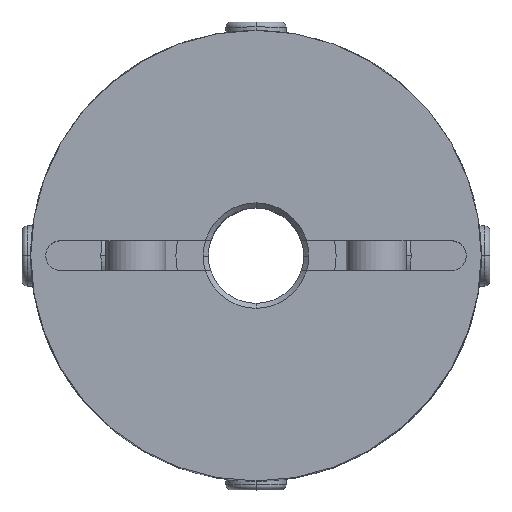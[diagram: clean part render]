
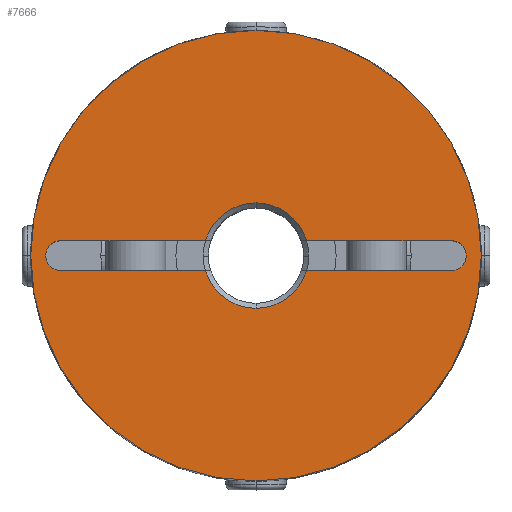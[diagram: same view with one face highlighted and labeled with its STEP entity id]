
A CAD part, top view. The second image highlights one B-rep face of the part: STEP entity #7666.
In plain terms, the highlighted planar face has unit normal (0, 0, 1).
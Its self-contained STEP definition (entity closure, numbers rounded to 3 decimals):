
#979=CARTESIAN_POINT('',(0.,22.5,22.5));
#980=VERTEX_POINT('',#979);
#987=CARTESIAN_POINT('',(0.,-22.5,22.5));
#988=VERTEX_POINT('',#987);
#989=CARTESIAN_POINT('',(0.0,0.0,22.5));
#990=DIRECTION('',(0.0,0.0,-1.0));
#991=DIRECTION('',(0.0,-1.0,0.0));
#992=AXIS2_PLACEMENT_3D('',#989,#990,#991);
#993=CIRCLE('',#992,22.5);
#994=EDGE_CURVE('',#980,#988,#993,.T.);
#1309=CARTESIAN_POINT('',(20.561,1.061,22.5));
#1310=VERTEX_POINT('',#1309);
#1326=CARTESIAN_POINT('',(19.5,-1.5,22.5));
#1327=VERTEX_POINT('',#1326);
#1334=CARTESIAN_POINT('',(19.5,0.,22.5));
#1335=DIRECTION('',(0.0,0.0,1.0));
#1336=DIRECTION('',(0.707,-0.707,0.0));
#1337=AXIS2_PLACEMENT_3D('',#1334,#1335,#1336);
#1338=CIRCLE('',#1337,1.5);
#1339=EDGE_CURVE('',#1327,#1310,#1338,.T.);
#1351=CARTESIAN_POINT('',(-20.561,-1.061,22.5));
#1352=VERTEX_POINT('',#1351);
#1368=CARTESIAN_POINT('',(-19.5,1.5,22.5));
#1369=VERTEX_POINT('',#1368);
#1376=CARTESIAN_POINT('',(-19.5,0.,22.5));
#1377=DIRECTION('',(0.0,0.0,1.0));
#1378=DIRECTION('',(-0.707,0.707,0.0));
#1379=AXIS2_PLACEMENT_3D('',#1376,#1377,#1378);
#1380=CIRCLE('',#1379,1.5);
#1381=EDGE_CURVE('',#1369,#1352,#1380,.T.);
#2105=CARTESIAN_POINT('',(0.,5.263,22.5));
#2106=VERTEX_POINT('',#2105);
#2114=CARTESIAN_POINT('',(5.044,1.5,22.5));
#2115=VERTEX_POINT('',#2114);
#2129=CARTESIAN_POINT('',(0.0,0.0,22.5));
#2130=DIRECTION('',(0.0,0.0,1.0));
#2131=DIRECTION('',(0.0,1.0,0.0));
#2132=AXIS2_PLACEMENT_3D('',#2129,#2130,#2131);
#2133=CIRCLE('',#2132,5.263);
#2134=EDGE_CURVE('',#2115,#2106,#2133,.T.);
#2144=CARTESIAN_POINT('',(0.,-5.263,22.5));
#2145=VERTEX_POINT('',#2144);
#2161=CARTESIAN_POINT('',(-5.044,-1.5,22.5));
#2162=VERTEX_POINT('',#2161);
#2176=CARTESIAN_POINT('',(0.0,0.0,22.5));
#2177=DIRECTION('',(0.0,0.0,1.0));
#2178=DIRECTION('',(0.0,-1.0,0.0));
#2179=AXIS2_PLACEMENT_3D('',#2176,#2177,#2178);
#2180=CIRCLE('',#2179,5.263);
#2181=EDGE_CURVE('',#2162,#2145,#2180,.T.);
#7404=CARTESIAN_POINT('',(19.5,1.5,22.5));
#7405=VERTEX_POINT('',#7404);
#7412=CARTESIAN_POINT('',(5.044,1.5,22.5));
#7413=DIRECTION('',(1.0,0.0,0.0));
#7414=VECTOR('',#7413,14.456);
#7415=LINE('',#7412,#7414);
#7416=EDGE_CURVE('',#2115,#7405,#7415,.T.);
#7551=CARTESIAN_POINT('',(5.044,-1.5,22.5));
#7552=VERTEX_POINT('',#7551);
#7566=CARTESIAN_POINT('',(19.5,-1.5,22.5));
#7567=DIRECTION('',(-1.0,0.0,0.0));
#7568=VECTOR('',#7567,14.456);
#7569=LINE('',#7566,#7568);
#7570=EDGE_CURVE('',#1327,#7552,#7569,.T.);
#7593=CARTESIAN_POINT('',(0.0,0.0,22.5));
#7594=DIRECTION('',(0.0,0.0,1.0));
#7595=DIRECTION('',(0.0,-1.0,0.0));
#7596=AXIS2_PLACEMENT_3D('',#7593,#7594,#7595);
#7597=CIRCLE('',#7596,5.263);
#7598=EDGE_CURVE('',#2145,#7552,#7597,.T.);
#7605=CARTESIAN_POINT('',(0.,-2.045,22.5));
#7606=DIRECTION('',(0.0,0.0,1.0));
#7607=DIRECTION('',(0.0,-1.0,0.0));
#7608=AXIS2_PLACEMENT_3D('',#7605,#7606,#7607);
#7609=PLANE('',#7608);
#7610=CARTESIAN_POINT('',(0.0,0.0,22.5));
#7611=DIRECTION('',(0.0,0.0,-1.0));
#7612=DIRECTION('',(0.0,-1.0,0.0));
#7613=AXIS2_PLACEMENT_3D('',#7610,#7611,#7612);
#7614=CIRCLE('',#7613,22.5);
#7615=EDGE_CURVE('',#988,#980,#7614,.T.);
#7616=ORIENTED_EDGE('',*,*,#7615,.F.);
#7617=ORIENTED_EDGE('',*,*,#994,.F.);
#7618=EDGE_LOOP('',(#7616,#7617));
#7619=FACE_OUTER_BOUND('',#7618,.T.);
#7620=ORIENTED_EDGE('',*,*,#2181,.F.);
#7621=CARTESIAN_POINT('',(-19.5,-1.5,22.5));
#7622=VERTEX_POINT('',#7621);
#7623=CARTESIAN_POINT('',(-5.044,-1.5,22.5));
#7624=DIRECTION('',(-1.0,0.0,0.0));
#7625=VECTOR('',#7624,14.456);
#7626=LINE('',#7623,#7625);
#7627=EDGE_CURVE('',#2162,#7622,#7626,.T.);
#7628=ORIENTED_EDGE('',*,*,#7627,.T.);
#7629=CARTESIAN_POINT('',(-19.5,0.,22.5));
#7630=DIRECTION('',(0.0,0.0,1.0));
#7631=DIRECTION('',(-0.707,0.707,0.0));
#7632=AXIS2_PLACEMENT_3D('',#7629,#7630,#7631);
#7633=CIRCLE('',#7632,1.5);
#7634=EDGE_CURVE('',#1352,#7622,#7633,.T.);
#7635=ORIENTED_EDGE('',*,*,#7634,.F.);
#7636=ORIENTED_EDGE('',*,*,#1381,.F.);
#7637=CARTESIAN_POINT('',(-5.044,1.5,22.5));
#7638=VERTEX_POINT('',#7637);
#7639=CARTESIAN_POINT('',(-19.5,1.5,22.5));
#7640=DIRECTION('',(1.0,0.0,0.0));
#7641=VECTOR('',#7640,14.456);
#7642=LINE('',#7639,#7641);
#7643=EDGE_CURVE('',#1369,#7638,#7642,.T.);
#7644=ORIENTED_EDGE('',*,*,#7643,.T.);
#7645=CARTESIAN_POINT('',(0.0,0.0,22.5));
#7646=DIRECTION('',(0.0,0.0,1.0));
#7647=DIRECTION('',(0.0,1.0,0.0));
#7648=AXIS2_PLACEMENT_3D('',#7645,#7646,#7647);
#7649=CIRCLE('',#7648,5.263);
#7650=EDGE_CURVE('',#2106,#7638,#7649,.T.);
#7651=ORIENTED_EDGE('',*,*,#7650,.F.);
#7652=ORIENTED_EDGE('',*,*,#2134,.F.);
#7653=ORIENTED_EDGE('',*,*,#7416,.T.);
#7654=CARTESIAN_POINT('',(19.5,0.,22.5));
#7655=DIRECTION('',(0.0,0.0,1.0));
#7656=DIRECTION('',(0.707,-0.707,0.0));
#7657=AXIS2_PLACEMENT_3D('',#7654,#7655,#7656);
#7658=CIRCLE('',#7657,1.5);
#7659=EDGE_CURVE('',#1310,#7405,#7658,.T.);
#7660=ORIENTED_EDGE('',*,*,#7659,.F.);
#7661=ORIENTED_EDGE('',*,*,#1339,.F.);
#7662=ORIENTED_EDGE('',*,*,#7570,.T.);
#7663=ORIENTED_EDGE('',*,*,#7598,.F.);
#7664=EDGE_LOOP('',(#7620,#7628,#7635,#7636,#7644,#7651,#7652,#7653,#7660,#7661,#7662,#7663));
#7665=FACE_BOUND('',#7664,.T.);
#7666=ADVANCED_FACE('',(#7619,#7665),#7609,.T.);
